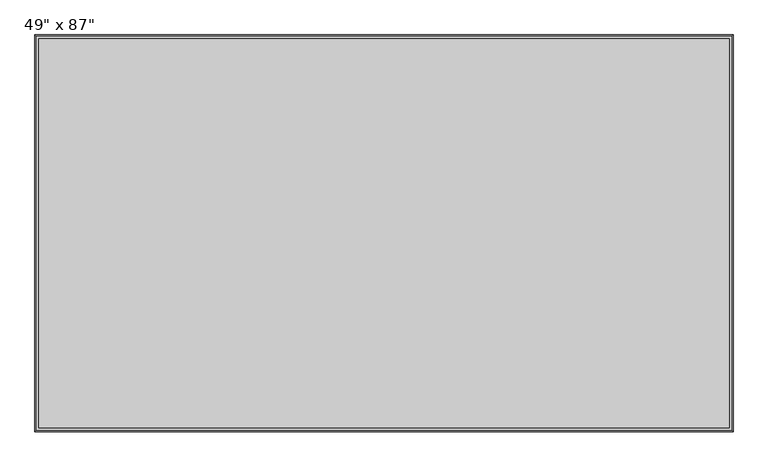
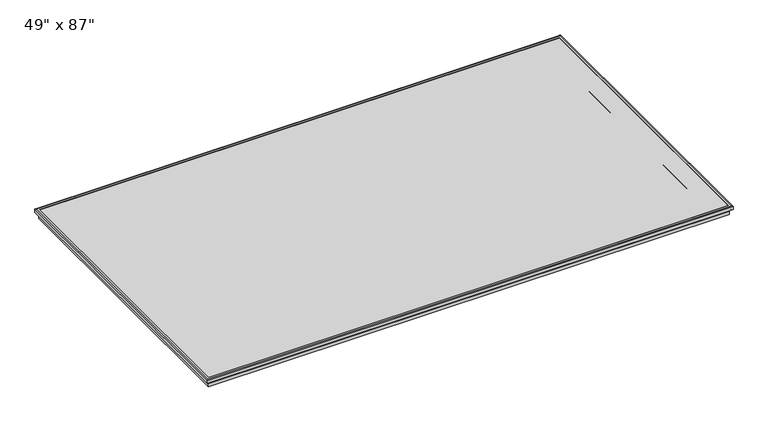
"""IFC4 building model written with IfcOpenShell, lengths in millimetres: proxy geometry."""

from ifc_helpers import new_model, si_unit, frame, origin, place, context, project, spatial, polyline, ellipse_curve, outline, extrude, source, transform, mapped, element, save
from ifc_brep_helpers import plane_surface, cylinder_surface, revolved_surface, advanced_brep


def proxy_2277eccb(model_context):
    return source(origin(), model_context, "Body", "SolidModel", [
        advanced_brep(
        [(-1104.9, -622.3, 38.7617518), (-1104.9, -622.3, 41.275), (1104.9, -622.3, 41.275), (1104.9, -622.3, 38.7617518), (-1027.6, -545.0, 0.0), (-1027.6, -545.0, 38.7617518), (1027.6, -545.0, 38.7617518), (1027.6, -545.0, 0.0), (-1107.6, -625.0, 14.8528553), (-1107.6, -625.0, 0.0), (1107.6, -625.0, 0.0), (1107.6, -625.0, 14.8528553), (-1108.5789908, -625.9789908, 17.8246368), (1108.5789908, -625.9789908, 17.8246368), (-1113.5368179, -630.9368179, 24.532892), (1113.5368179, -630.9368179, 24.532892), (-1115.0080712, -632.4080712, 25.275), (1115.0080712, -632.4080712, 25.275), (-1117.6, -635.0, 38.275), (-1117.6, -635.0, 25.275), (1117.6, -635.0, 25.275), (1117.6, -635.0, 38.275), (-1114.6, -632.0, 41.275), (1114.6, -632.0, 41.275), (1104.9, 622.3, 41.275), (1104.9, 622.3, 38.7617518), (1027.6, 545.0, 38.7617518), (1027.6, 545.0, 0.0), (1107.6, 625.0, 0.0), (1107.6, 625.0, 14.8528553), (1108.5789908, 625.9789908, 17.8246368), (1113.5368179, 630.9368179, 24.532892), (1115.0080712, 632.4080712, 25.275), (1117.6, 635.0, 25.275), (1117.6, 635.0, 38.275), (1114.6, 632.0, 41.275), (-1104.9, 622.3, 41.275), (-1104.9, 622.3, 38.7617518), (-1027.6, 545.0, 38.7617518), (-1027.6, 545.0, 0.0), (-1107.6, 625.0, 0.0), (-1107.6, 625.0, 14.8528553), (-1108.5789908, 625.9789908, 17.8246368), (-1113.5368179, 630.9368179, 24.532892), (-1115.0080712, 632.4080712, 25.275), (-1117.6, 635.0, 25.275), (-1117.6, 635.0, 38.275), (-1114.6, 632.0, 41.275)],
        [
            (0, 1),
            (1, 2),
            (2, 3),
            (3, 0),
            (4, 5),
            (5, 6),
            (6, 7),
            (7, 4),
            (8, 9),
            (9, 10),
            (10, 11),
            (11, 8),
            (12, 8, ellipse_curve(frame((-1112.6, -630.0, 14.8528553), z_axis=(-0.7071067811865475, 0.7071067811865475, 0.0), x_axis=(0.7071067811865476, 0.7071067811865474, 0.0)), 7.0710678, 5.0)),
            (11, 13, ellipse_curve(frame((1112.6, -630.0, 14.8528553), z_axis=(0.7071067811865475, 0.7071067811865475, 0.0), x_axis=(0.7071067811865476, -0.7071067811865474, 0.0)), 7.0710678, 5.0)),
            (13, 12),
            (14, 12),
            (13, 15),
            (15, 14),
            (16, 14, ellipse_curve(frame((-1115.0080712, -632.4080712, 23.4455422), z_axis=(-0.7071067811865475, 0.7071067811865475, 0.0), x_axis=(0.7071067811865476, 0.7071067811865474, 0.0)), 2.587244, 1.8294578)),
            (15, 17, ellipse_curve(frame((1115.0080712, -632.4080712, 23.4455422), z_axis=(0.7071067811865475, 0.7071067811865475, 0.0), x_axis=(0.7071067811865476, -0.7071067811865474, 0.0)), 2.587244, 1.8294578)),
            (17, 16),
            (18, 19),
            (19, 20),
            (20, 21),
            (21, 18),
            (22, 18, ellipse_curve(frame((-1114.6, -632.0, 38.275), z_axis=(0.7071067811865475, -0.7071067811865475, 0.0), x_axis=(-0.7071067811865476, -0.7071067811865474, 0.0)), 4.2426407, 3.0)),
            (21, 23, ellipse_curve(frame((1114.6, -632.0, 38.275), z_axis=(-0.7071067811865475, -0.7071067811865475, 0.0), x_axis=(-0.7071067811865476, 0.7071067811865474, 0.0)), 4.2426407, 3.0)),
            (23, 22),
            (2, 24),
            (24, 25),
            (25, 3),
            (6, 26),
            (26, 27),
            (27, 7),
            (10, 28),
            (28, 29),
            (29, 11),
            (29, 30, ellipse_curve(frame((1112.6, 630.0, 14.8528553), z_axis=(-0.7071067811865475, 0.7071067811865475, 0.0), x_axis=(0.7071067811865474, 0.7071067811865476, 0.0)), 7.0710678, 5.0)),
            (30, 13),
            (30, 31),
            (31, 15),
            (31, 32, ellipse_curve(frame((1115.0080712, 632.4080712, 23.4455422), z_axis=(-0.7071067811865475, 0.7071067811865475, 0.0), x_axis=(0.7071067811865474, 0.7071067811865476, 0.0)), 2.587244, 1.8294578)),
            (32, 17),
            (20, 33),
            (33, 34),
            (34, 21),
            (34, 35, ellipse_curve(frame((1114.6, 632.0, 38.275), z_axis=(0.7071067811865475, -0.7071067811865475, 0.0), x_axis=(-0.7071067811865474, -0.7071067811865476, 0.0)), 4.2426407, 3.0)),
            (35, 23),
            (24, 36),
            (36, 37),
            (37, 25),
            (26, 38),
            (38, 39),
            (39, 27),
            (28, 40),
            (40, 41),
            (41, 29),
            (41, 42, ellipse_curve(frame((-1112.6, 630.0, 14.8528553), z_axis=(-0.7071067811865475, -0.7071067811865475, 0.0), x_axis=(-0.7071067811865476, 0.7071067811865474, 0.0)), 7.0710678, 5.0)),
            (42, 30),
            (42, 43),
            (43, 31),
            (43, 44, ellipse_curve(frame((-1115.0080712, 632.4080712, 23.4455422), z_axis=(-0.7071067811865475, -0.7071067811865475, 0.0), x_axis=(-0.7071067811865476, 0.7071067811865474, 0.0)), 2.587244, 1.8294578)),
            (44, 32),
            (33, 45),
            (45, 46),
            (46, 34),
            (46, 47, ellipse_curve(frame((-1114.6, 632.0, 38.275), z_axis=(0.7071067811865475, 0.7071067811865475, 0.0), x_axis=(0.7071067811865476, -0.7071067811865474, 0.0)), 4.2426407, 3.0)),
            (47, 35),
            (36, 1),
            (0, 37),
            (5, 38),
            (4, 39),
            (9, 40),
            (8, 41),
            (12, 42),
            (14, 43),
            (16, 44),
            (19, 45),
            (18, 46),
            (22, 47),
        ],
        [
            plane_surface(frame((-1104.9, -622.3, 41.275), z_axis=(0.0, 1.0, 0.0), x_axis=(1.0, 0.0, 0.0))),
            plane_surface(frame((-1027.6, -545.0, 38.7617518), z_axis=(0.0, 1.0, 0.0), x_axis=(1.0, 0.0, 0.0))),
            plane_surface(frame((-1107.6, -625.0, 0.0), z_axis=(0.0, -1.0, 0.0), x_axis=(1.0, 0.0, 0.0))),
            revolved_surface(polyline([(1117.5999999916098, -625.0, 14.8528553), (-1117.5999999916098, -625.0, 14.8528553)]), (-1117.6, -630.0, 14.8528553), (1.0, 0.0, 0.0)),
            plane_surface(frame((-1108.5789908, -625.9789908, 17.8246368), z_axis=(0.0, -0.8042018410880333, -0.5943562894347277), x_axis=(1.0, 0.0, 0.0))),
            revolved_surface(polyline([(1116.8375289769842, -630.5786134, 23.4455422), (-1116.837528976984, -630.5786134, 23.4455422)]), (-1117.6, -632.4080712, 23.4455422), (1.0, 0.0, 0.0)),
            plane_surface(frame((-1117.6, -635.0, 25.275), z_axis=(0.0, -1.0, 0.0), x_axis=(1.0, 0.0, 0.0))),
            cylinder_surface(frame((-1117.6, -632.0, 38.275), z_axis=(-1.0, 0.0, 0.0), x_axis=(0.0, 1.0, 0.0)), 3.0),
            plane_surface(frame((1104.9, -622.3, 41.275), z_axis=(-1.0, 0.0, 0.0), x_axis=(0.0, 1.0, 0.0))),
            plane_surface(frame((1027.6, -545.0, 38.7617518), z_axis=(-1.0, 0.0, 0.0), x_axis=(0.0, 1.0, 0.0))),
            plane_surface(frame((1107.6, -625.0, 0.0), z_axis=(1.0, 0.0, 0.0), x_axis=(0.0, 1.0, 0.0))),
            revolved_surface(polyline([(1107.6, 634.9999999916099, 14.8528553), (1107.6, -634.9999999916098, 14.8528553)]), (1112.6, -635.0, 14.8528553), (0.0, 1.0, 0.0)),
            plane_surface(frame((1108.5789908, -625.9789908, 17.8246368), z_axis=(0.8042018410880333, 0.0, -0.5943562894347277), x_axis=(0.0, 1.0, 0.0))),
            revolved_surface(polyline([(1113.1786134, 634.2375289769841, 23.4455422), (1113.1786134, -634.2375289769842, 23.4455422)]), (1115.0080712, -635.0, 23.4455422), (0.0, 1.0, 0.0)),
            plane_surface(frame((1117.6, -635.0, 25.275), z_axis=(1.0, 0.0, 0.0), x_axis=(0.0, 1.0, 0.0))),
            cylinder_surface(frame((1114.6, -635.0, 38.275), z_axis=(0.0, -1.0, 0.0), x_axis=(-1.0, 0.0, 0.0)), 3.0),
            plane_surface(frame((1104.9, 622.3, 41.275), z_axis=(0.0, -1.0, 0.0), x_axis=(-1.0, 0.0, 0.0))),
            plane_surface(frame((1027.6, 545.0, 38.7617518), z_axis=(0.0, -1.0, 0.0), x_axis=(-1.0, 0.0, 0.0))),
            plane_surface(frame((1107.6, 625.0, 0.0), z_axis=(0.0, 1.0, 0.0), x_axis=(-1.0, 0.0, 0.0))),
            revolved_surface(polyline([(-1117.5999999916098, 625.0, 14.8528553), (1117.5999999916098, 625.0, 14.8528553)]), (1117.6, 630.0, 14.8528553), (-1.0, 0.0, 0.0)),
            plane_surface(frame((1108.5789908, 625.9789908, 17.8246368), z_axis=(0.0, 0.8042018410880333, -0.5943562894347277), x_axis=(-1.0, 0.0, 0.0))),
            revolved_surface(polyline([(-1116.8375289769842, 630.5786134, 23.4455422), (1116.837528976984, 630.5786134, 23.4455422)]), (1117.6, 632.4080712, 23.4455422), (-1.0, 0.0, 0.0)),
            plane_surface(frame((1117.6, 635.0, 25.275), z_axis=(0.0, 1.0, 0.0), x_axis=(-1.0, 0.0, 0.0))),
            cylinder_surface(frame((1117.6, 632.0, 38.275), z_axis=(1.0, 0.0, 0.0), x_axis=(0.0, -1.0, 0.0)), 3.0),
            plane_surface(frame((-1104.9, 622.3, 41.275), z_axis=(1.0, 0.0, 0.0), x_axis=(0.0, -1.0, 0.0))),
            plane_surface(frame((-1104.9, 622.3, 38.7617518), z_axis=(0.0, 0.0, 1.0), x_axis=(0.0, -1.0, 0.0))),
            plane_surface(frame((-1027.6, 545.0, 38.7617518), z_axis=(1.0, 0.0, 0.0), x_axis=(0.0, -1.0, 0.0))),
            plane_surface(frame((-1027.6, 545.0, 0.0), z_axis=(0.0, 0.0, -1.0), x_axis=(0.0, -1.0, 0.0))),
            plane_surface(frame((-1107.6, 625.0, 0.0), z_axis=(-1.0, 0.0, 0.0), x_axis=(0.0, -1.0, 0.0))),
            revolved_surface(polyline([(-1107.6, -634.9999999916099, 14.8528553), (-1107.6, 634.9999999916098, 14.8528553)]), (-1112.6, 635.0, 14.8528553), (0.0, -1.0, 0.0)),
            plane_surface(frame((-1108.5789908, 625.9789908, 17.8246368), z_axis=(-0.8042018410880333, 0.0, -0.5943562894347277), x_axis=(0.0, -1.0, 0.0))),
            revolved_surface(polyline([(-1113.1786134, -634.2375289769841, 23.4455422), (-1113.1786134, 634.2375289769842, 23.4455422)]), (-1115.0080712, 635.0, 23.4455422), (0.0, -1.0, 0.0)),
            plane_surface(frame((-1115.0080712, 632.4080712, 25.275), z_axis=(0.0, 0.0, -1.0), x_axis=(0.0, -1.0, 0.0))),
            plane_surface(frame((-1117.6, 635.0, 25.275), z_axis=(-1.0, 0.0, 0.0), x_axis=(0.0, -1.0, 0.0))),
            cylinder_surface(frame((-1114.6, 635.0, 38.275), z_axis=(0.0, 1.0, 0.0), x_axis=(1.0, 0.0, 0.0)), 3.0),
            plane_surface(frame((-1114.6, 632.0, 41.275), z_axis=(0.0, 0.0, 1.0), x_axis=(0.0, -1.0, 0.0))),
        ],
        [
            (0, [[1, 2, 3, 4]]),
            (1, [[5, 6, 7, 8]]),
            (2, [[9, 10, 11, 12]]),
            (3, [[13, -12, 14, 15]]),
            (4, [[16, -15, 17, 18]]),
            (5, [[19, -18, 20, 21]]),
            (6, [[22, 23, 24, 25]]),
            (7, [[26, -25, 27, 28]]),
            (8, [[-3, 29, 30, 31]]),
            (9, [[-7, 32, 33, 34]]),
            (10, [[-11, 35, 36, 37]]),
            (11, [[-14, -37, 38, 39]]),
            (12, [[-17, -39, 40, 41]]),
            (13, [[-20, -41, 42, 43]]),
            (14, [[-24, 44, 45, 46]]),
            (15, [[-27, -46, 47, 48]]),
            (16, [[-30, 49, 50, 51]]),
            (17, [[-33, 52, 53, 54]]),
            (18, [[-36, 55, 56, 57]]),
            (19, [[-38, -57, 58, 59]]),
            (20, [[-40, -59, 60, 61]]),
            (21, [[-42, -61, 62, 63]]),
            (22, [[-45, 64, 65, 66]]),
            (23, [[-47, -66, 67, 68]]),
            (24, [[-50, 69, -1, 70]]),
            (25, [[-31, -51, -70, -4], [71, -52, -32, -6]]),
            (26, [[-53, -71, -5, 72]]),
            (27, [[73, -55, -35, -10], [-34, -54, -72, -8]]),
            (28, [[-56, -73, -9, 74]]),
            (29, [[-58, -74, -13, 75]]),
            (30, [[-60, -75, -16, 76]]),
            (31, [[-62, -76, -19, 77]]),
            (32, [[78, -64, -44, -23], [-43, -63, -77, -21]]),
            (33, [[-65, -78, -22, 79]]),
            (34, [[-67, -79, -26, 80]]),
            (35, [[-48, -68, -80, -28], [-69, -49, -29, -2]]),
        ],
    ),
        extrude(outline(polyline([(1104.9, 622.3), (1104.9, -622.3), (-1104.9, -622.3), (-1104.9, 622.3), (1104.9, 622.3)])), frame((0.0, 0.0, 38.7617518), z_axis=(0.0, 0.0, 1.0), x_axis=(1.0, 0.0, 0.0)), (0.0, 0.0, 1.0), 0.5132482),
    ])


if __name__ == "__main__":
    model = new_model("IFC4")
    model_context = context("Model", 3, world=origin())
    ifc_project = project(units=[si_unit("LENGTHUNIT", "METRE", prefix="MILLI")], contexts=[model_context])
    site = spatial("IfcSite", under=ifc_project)
    building = spatial("IfcBuilding", under=site)
    placement = place(None, origin())
    proxy_shape = proxy_2277eccb(model_context)
    element("IfcBuildingElementProxy", 1, Name="Electronics-Visual-Projectors_Da-Lite_Specialty-Equipment_Parallax-Thin : 49\" x 87\"", ObjectType="Electronics-Visual-Projectors_Da-Lite_Specialty-Equipment_Parallax-Thin : 49\" x 87\"", at=placement, inside=building, context=model_context, shape_type="MappedRepresentation", body=[
        mapped(proxy_shape, transform((0.0, 0.0, 0.0), x_axis=(1.0, 0.0, 0.0), y_axis=(0.0, 1.0, 0.0), z_axis=(0.0, 0.0, 1.0))),
    ])
    save(model, "model.ifc")
